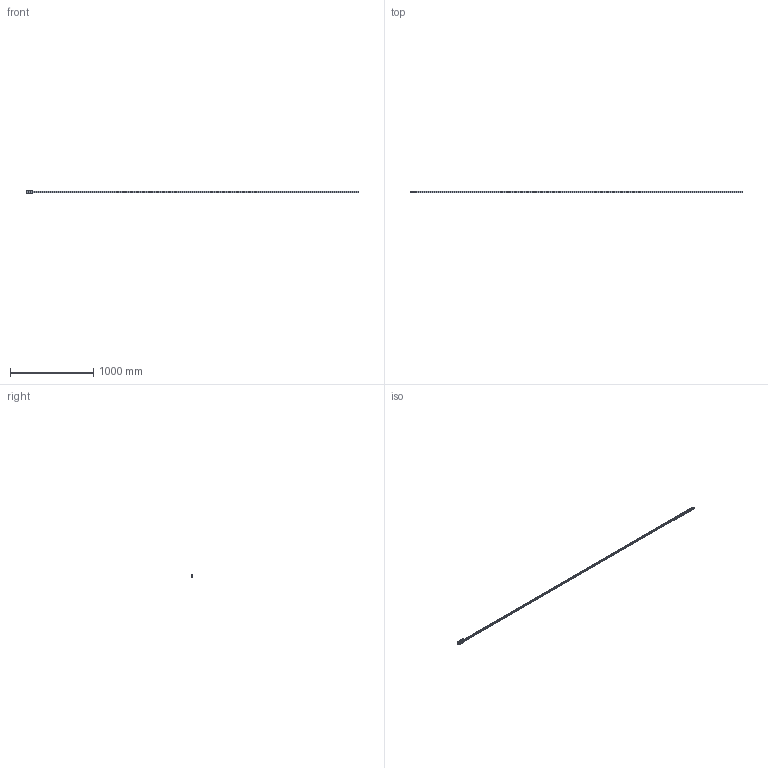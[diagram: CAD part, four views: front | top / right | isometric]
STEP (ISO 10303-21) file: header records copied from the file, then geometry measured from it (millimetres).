
FILE_DESCRIPTION( ( 'STEP AP203' ), '1' );
FILE_NAME( 'p:/temp/worker_8/temp/exporttempdir_140_742_AauYU/format_0/FDI15 84396NV_4000-0.stp', '2021-02-04T01:57:00', ( 'License CC BY-ND 4.0' ), ( 'CADENAS' ), ' ', 'PARTsolutions', ' ' );
FILE_SCHEMA( ( 'CONFIG_CONTROL_DESIGN' ) );
Length unit declared in the file: millimetre
Products named in the file (3): FDI15 84396NV_4000-0; _FDI K_15K-4000-0; _FDI_15K Slider
Assembly tree (2 placements, depth 2):
  FDI15 84396NV_4000-0
    _FDI K_15K-4000-0
    _FDI_15K Slider
Bounding box: 4000 x 24 x 47 mm (x, y, z)
Volume: 924799.3 mm3; surface area: 368843.1 mm2
Topology: 2 solids, 2 shells, 544 faces, 1415 edges, 965 vertices
Faces by surface type: cylinder 288, plane 246, torus 8, cone 2
Full cylindrical faces by diameter (mm): 4.134 x4, 4.5 x67, 5.5 x4, 7 x8, 8 x75
Entity records: 15867 total; most frequent: DIRECTION 2849, CARTESIAN_POINT 2641, ORIENTED_EDGE 2340, EDGE_CURVE 1170, AXIS2_PLACEMENT_3D 1141, EDGE_LOOP 953, VERTEX_POINT 887, FACE_OUTER_BOUND 710
